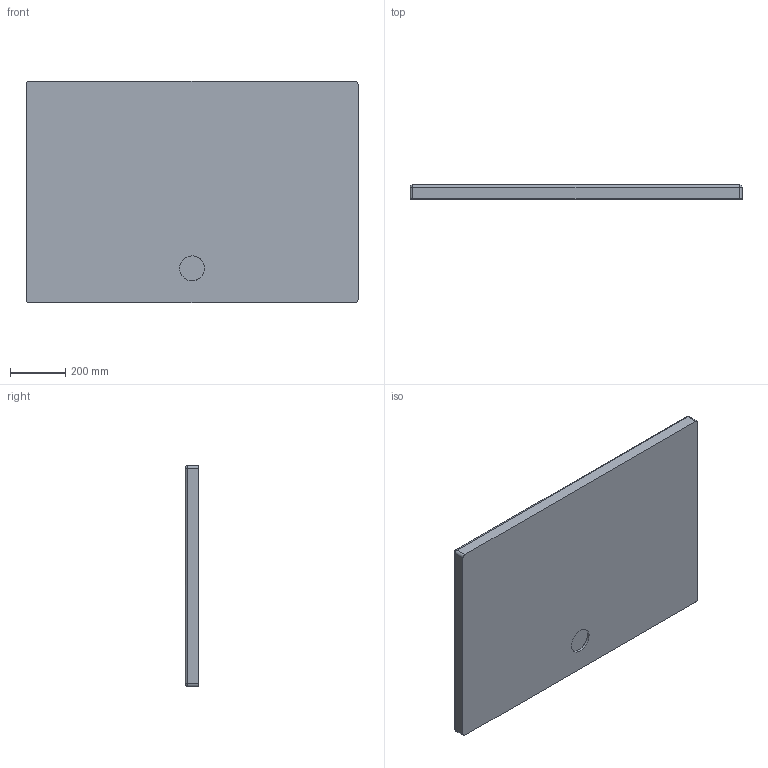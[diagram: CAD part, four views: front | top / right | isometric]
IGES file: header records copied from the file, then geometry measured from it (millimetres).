
Global section: file name: c881ed1b-ba13-4045-8137-ab44bf0a0e90; native system: unknown; preprocessor: unknown; author: unknown; organization: unknown; date: 20200103.090203; units: millimetre
Bounding box: 1200 x 50 x 800 mm (x, y, z)
Volume: 28447858.8 mm3; surface area: 2212984.1 mm2
Topology: 2 solids, 2 shells, 104 faces, 220 edges, 122 vertices
Faces by surface type: bspline 104
